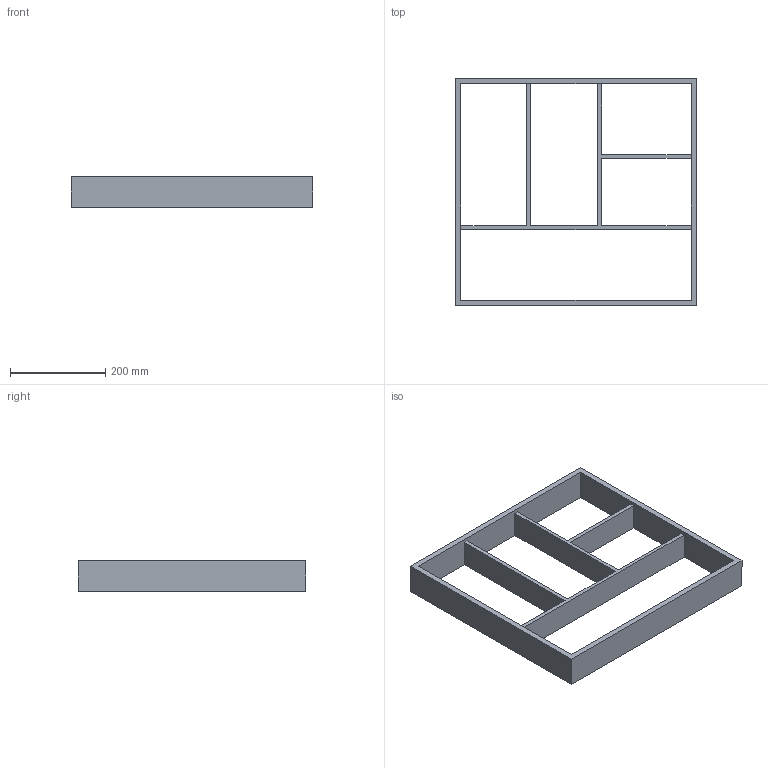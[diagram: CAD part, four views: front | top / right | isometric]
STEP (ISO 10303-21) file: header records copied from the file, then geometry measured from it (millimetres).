
FILE_DESCRIPTION (( 'STEP AP214' ), '1' );
FILE_NAME ('Vario Multi NL500_B600_16 mm_Alu.step', '2010-10-07T06:24:33', ( 'grass' ), ( '' ), 'SwSTEP 2.0', 'SolidWorks 2010', '' );
FILE_SCHEMA (( 'AUTOMOTIVE_DESIGN' ));
Length unit declared in the file: millimetre
Products named in the file (1): Vario Multi NL500_B600_16 mm_Alu
Bounding box: 508 x 479 x 65 mm (x, y, z)
Volume: 2081217.6 mm3; surface area: 458004 mm2
Topology: 1 solids, 1 shells, 22 faces, 72 edges, 48 vertices
Faces by surface type: plane 22
Entity records: 830 total; most frequent: ORIENTED_EDGE 144, CARTESIAN_POINT 143, DIRECTION 118, EDGE_CURVE 72, VECTOR 72, LINE 72, VERTEX_POINT 48, EDGE_LOOP 28
